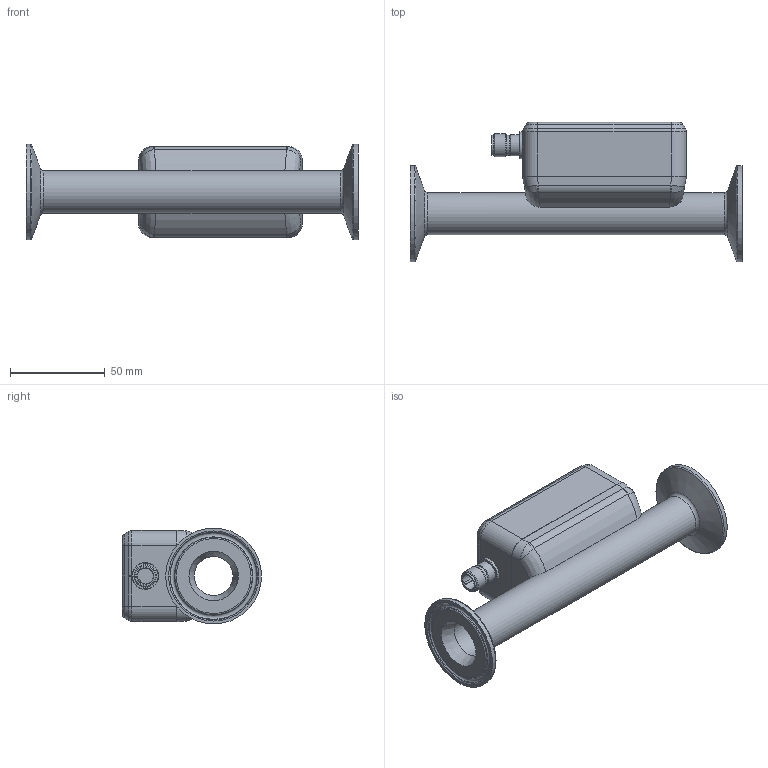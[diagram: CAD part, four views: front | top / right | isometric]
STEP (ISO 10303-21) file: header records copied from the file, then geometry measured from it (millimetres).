
FILE_DESCRIPTION(/* description */ ('STEP AP203'),/* implementation_level */ '2;1');
FILE_NAME(/* name */ 'P_MZ_300_0412',/* time_stamp */ '2025-05-05T09:16:27+02:00',/* author */ ('License CC BY-ND 4.0'),/* organization */ ('CADENAS'),/* preprocessor_version */ 'ST-DEVELOPER v19.3',/* originating_system */ 'PARTsolutions',/* authorisation */ ' ');
FILE_SCHEMA (('CONFIG_CONTROL_DESIGN'));
Length unit declared in the file: millimetre
Products named in the file (1): P_MZ_300_0412
Bounding box: 175 x 73.3 x 50.5 mm (x, y, z)
Volume: 186751.8 mm3; surface area: 44229 mm2
Topology: 1 solids, 1 shells, 108 faces, 235 edges, 131 vertices
Faces by surface type: cylinder 32, plane 26, torus 21, cone 16, bspline 13
Full cylindrical faces by diameter (mm): 8.45 x1, 10.55 x1, 10.8 x1, 11.3 x1, 12 x1, 14 x1, 20.43 x1, 22.25 x1, 50.5 x2
Entity records: 3645 total; most frequent: CARTESIAN_POINT 710, DIRECTION 472, ORIENTED_EDGE 388, AXIS2_PLACEMENT_3D 203, EDGE_CURVE 194, EDGE_LOOP 151, FACE_BOUND 151, VERTEX_POINT 129
